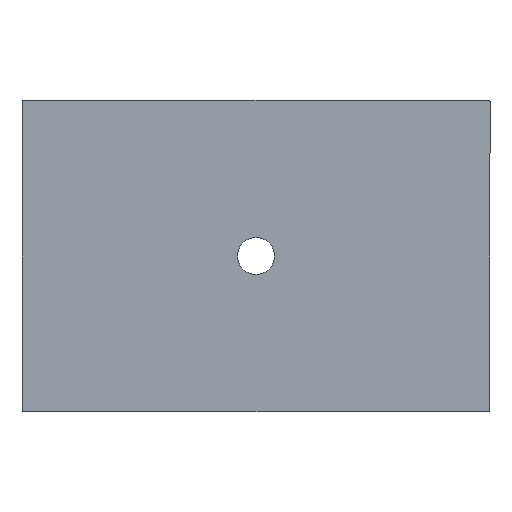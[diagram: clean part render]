
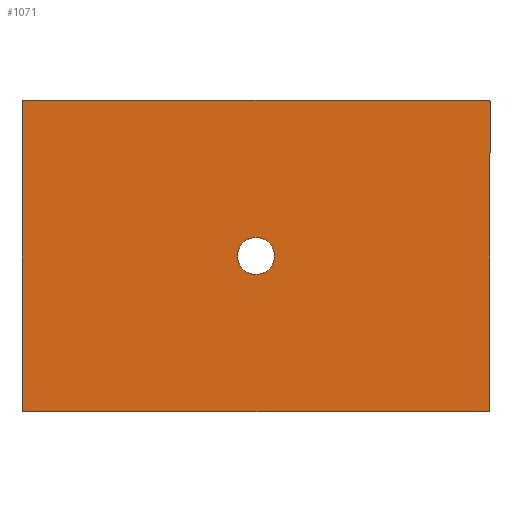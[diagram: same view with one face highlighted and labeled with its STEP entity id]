
A CAD part, front view. The second image highlights one B-rep face of the part: STEP entity #1071.
In plain terms, the highlighted planar face has unit normal (0, -1, 0).
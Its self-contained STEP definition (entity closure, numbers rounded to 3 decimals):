
#64 = CARTESIAN_POINT ( 'NONE',  ( 597.929, 0., 400. ) ) ;
#78 = CARTESIAN_POINT ( 'NONE',  ( 595.001, 0., 400. ) ) ;
#122 = CARTESIAN_POINT ( 'NONE',  ( 600., 0., 400. ) ) ;
#256 = ORIENTED_EDGE ( 'NONE', *, *, #1429, .T. ) ;
#268 = VERTEX_POINT ( 'NONE', #1340 ) ;
#269 = DIRECTION ( 'NONE',  ( 0., -1., 0. ) ) ;
#283 = CARTESIAN_POINT ( 'NONE',  ( 600., 0., -395.001 ) ) ;
#289 = ORIENTED_EDGE ( 'NONE', *, *, #2493, .T. ) ;
#323 = CARTESIAN_POINT ( 'NONE',  ( -595.001, 0., -400. ) ) ;
#335 = CARTESIAN_POINT ( 'NONE',  ( -600., 0., -397.929 ) ) ;
#398 = CARTESIAN_POINT ( 'NONE',  ( -595.001, 0., 400. ) ) ;
#405 = ORIENTED_EDGE ( 'NONE', *, *, #1491, .F. ) ;
#445 = CARTESIAN_POINT ( 'NONE',  ( 600., 0., 397.929 ) ) ;
#454 = VECTOR ( 'NONE', #2325, 1000. ) ;
#469 = CARTESIAN_POINT ( 'NONE',  ( 600., 0., -395.001 ) ) ;
#478 = CARTESIAN_POINT ( 'NONE',  ( 600., 0., -397.929 ) ) ;
#551 = EDGE_CURVE ( 'NONE', #1990, #1473, #1781, .T. ) ;
#642 = FACE_OUTER_BOUND ( 'NONE', #1185, .T. ) ;
#684 = DIRECTION ( 'NONE',  ( 0., 0., 1. ) ) ;
#731 = LINE ( 'NONE', #122, #1099 ) ;
#755 = DIRECTION ( 'NONE',  ( 0., 0., -1. ) ) ;
#777 = LINE ( 'NONE', #2134, #2314 ) ;
#784 = VERTEX_POINT ( 'NONE', #469 ) ;
#812 = CARTESIAN_POINT ( 'NONE',  ( -597.929, 0., 400. ) ) ;
#817 = DIRECTION ( 'NONE',  ( 0., 0., 1. ) ) ;
#848 = EDGE_LOOP ( 'NONE', ( #1620 ) ) ;
#904 = VERTEX_POINT ( 'NONE', #2163 ) ;
#925 = CARTESIAN_POINT ( 'NONE',  ( -597.929, 0., -400. ) ) ;
#959 = CARTESIAN_POINT ( 'NONE',  ( 600., 0., -400. ) ) ;
#1017 =( BOUNDED_CURVE ( )  B_SPLINE_CURVE ( 3, ( #1786, #445, #64, #78 ),
 .UNSPECIFIED., .F., .F. ) 
 B_SPLINE_CURVE_WITH_KNOTS ( ( 4, 4 ),
 ( 5.498, 7.068 ),
 .UNSPECIFIED. ) 
 CURVE ( )  GEOMETRIC_REPRESENTATION_ITEM ( )  RATIONAL_B_SPLINE_CURVE ( ( 1., 0.805, 0.805, 1. ) ) 
 REPRESENTATION_ITEM ( '' )  );
#1061 = VERTEX_POINT ( 'NONE', #2242 ) ;
#1071 = ADVANCED_FACE ( 'NONE', ( #2227, #642 ), #1082, .F. ) ;
#1082 = PLANE ( 'NONE',  #1506 ) ;
#1099 = VECTOR ( 'NONE', #755, 1000. ) ;
#1101 = CIRCLE ( 'NONE', #1468, 47.5 ) ;
#1177 = LINE ( 'NONE', #959, #454 ) ;
#1185 = EDGE_LOOP ( 'NONE', ( #1625, #1598, #2359, #289, #405, #2055, #2363, #256 ) ) ;
#1218 = VECTOR ( 'NONE', #817, 1000. ) ;
#1253 = CARTESIAN_POINT ( 'NONE',  ( 0., 0., -47.5 ) ) ;
#1290 = EDGE_CURVE ( 'NONE', #268, #784, #731, .T. ) ;
#1340 = CARTESIAN_POINT ( 'NONE',  ( 600., 0., 395.001 ) ) ;
#1349 = CARTESIAN_POINT ( 'NONE',  ( 595.001, 0., 400. ) ) ;
#1361 = CARTESIAN_POINT ( 'NONE',  ( 0., 0., 0. ) ) ;
#1398 = CARTESIAN_POINT ( 'NONE',  ( -600., 0., 395.001 ) ) ;
#1423 = DIRECTION ( 'NONE',  ( 0., 0., -1. ) ) ;
#1429 = EDGE_CURVE ( 'NONE', #1990, #2434, #1616, .T. ) ;
#1468 = AXIS2_PLACEMENT_3D ( 'NONE', #1361, #269, #1423 ) ;
#1473 = VERTEX_POINT ( 'NONE', #1398 ) ;
#1491 = EDGE_CURVE ( 'NONE', #904, #1804, #777, .T. ) ;
#1506 = AXIS2_PLACEMENT_3D ( 'NONE', #2214, #2417, #684 ) ;
#1519 = EDGE_CURVE ( 'NONE', #904, #1473, #1886, .T. ) ;
#1559 = CARTESIAN_POINT ( 'NONE',  ( -600., 0., 395.001 ) ) ;
#1598 = ORIENTED_EDGE ( 'NONE', *, *, #1902, .T. ) ;
#1616 =( BOUNDED_CURVE ( )  B_SPLINE_CURVE ( 3, ( #2064, #335, #925, #323 ),
 .UNSPECIFIED., .F., .F. ) 
 B_SPLINE_CURVE_WITH_KNOTS ( ( 4, 4 ),
 ( 5.498, 7.068 ),
 .UNSPECIFIED. ) 
 CURVE ( )  GEOMETRIC_REPRESENTATION_ITEM ( )  RATIONAL_B_SPLINE_CURVE ( ( 1., 0.805, 0.805, 1. ) ) 
 REPRESENTATION_ITEM ( '' )  );
#1620 = ORIENTED_EDGE ( 'NONE', *, *, #1837, .F. ) ;
#1625 = ORIENTED_EDGE ( 'NONE', *, *, #1642, .F. ) ;
#1642 = EDGE_CURVE ( 'NONE', #1061, #2434, #1177, .T. ) ;
#1741 = DIRECTION ( 'NONE',  ( 1., 0., 0. ) ) ;
#1755 = CARTESIAN_POINT ( 'NONE',  ( -600., 0., 397.929 ) ) ;
#1781 = LINE ( 'NONE', #2175, #1218 ) ;
#1786 = CARTESIAN_POINT ( 'NONE',  ( 600., 0., 395.001 ) ) ;
#1795 =( BOUNDED_CURVE ( )  B_SPLINE_CURVE ( 3, ( #2402, #1983, #478, #283 ),
 .UNSPECIFIED., .F., .F. ) 
 B_SPLINE_CURVE_WITH_KNOTS ( ( 4, 4 ),
 ( 5.498, 7.068 ),
 .UNSPECIFIED. ) 
 CURVE ( )  GEOMETRIC_REPRESENTATION_ITEM ( )  RATIONAL_B_SPLINE_CURVE ( ( 1., 0.805, 0.805, 1. ) ) 
 REPRESENTATION_ITEM ( '' )  );
#1801 = CARTESIAN_POINT ( 'NONE',  ( -595.001, 0., -400. ) ) ;
#1804 = VERTEX_POINT ( 'NONE', #1349 ) ;
#1829 = VERTEX_POINT ( 'NONE', #1253 ) ;
#1837 = EDGE_CURVE ( 'NONE', #1829, #1829, #1101, .T. ) ;
#1886 =( BOUNDED_CURVE ( )  B_SPLINE_CURVE ( 3, ( #398, #812, #1755, #1559 ),
 .UNSPECIFIED., .F., .F. ) 
 B_SPLINE_CURVE_WITH_KNOTS ( ( 4, 4 ),
 ( 5.498, 7.068 ),
 .UNSPECIFIED. ) 
 CURVE ( )  GEOMETRIC_REPRESENTATION_ITEM ( )  RATIONAL_B_SPLINE_CURVE ( ( 1., 0.805, 0.805, 1. ) ) 
 REPRESENTATION_ITEM ( '' )  );
#1902 = EDGE_CURVE ( 'NONE', #1061, #784, #1795, .T. ) ;
#1983 = CARTESIAN_POINT ( 'NONE',  ( 597.929, 0., -400. ) ) ;
#1990 = VERTEX_POINT ( 'NONE', #2199 ) ;
#2055 = ORIENTED_EDGE ( 'NONE', *, *, #1519, .T. ) ;
#2064 = CARTESIAN_POINT ( 'NONE',  ( -600., 0., -395.001 ) ) ;
#2134 = CARTESIAN_POINT ( 'NONE',  ( -600., 0., 400. ) ) ;
#2163 = CARTESIAN_POINT ( 'NONE',  ( -595.001, 0., 400. ) ) ;
#2175 = CARTESIAN_POINT ( 'NONE',  ( -600., 0., -400. ) ) ;
#2199 = CARTESIAN_POINT ( 'NONE',  ( -600., 0., -395.001 ) ) ;
#2214 = CARTESIAN_POINT ( 'NONE',  ( 0., 0., 0. ) ) ;
#2227 = FACE_BOUND ( 'NONE', #848, .T. ) ;
#2242 = CARTESIAN_POINT ( 'NONE',  ( 595.001, 0., -400. ) ) ;
#2314 = VECTOR ( 'NONE', #1741, 1000. ) ;
#2325 = DIRECTION ( 'NONE',  ( -1., 0., 0. ) ) ;
#2359 = ORIENTED_EDGE ( 'NONE', *, *, #1290, .F. ) ;
#2363 = ORIENTED_EDGE ( 'NONE', *, *, #551, .F. ) ;
#2402 = CARTESIAN_POINT ( 'NONE',  ( 595.001, 0., -400. ) ) ;
#2417 = DIRECTION ( 'NONE',  ( 0., 1., 0. ) ) ;
#2434 = VERTEX_POINT ( 'NONE', #1801 ) ;
#2493 = EDGE_CURVE ( 'NONE', #268, #1804, #1017, .T. ) ;
